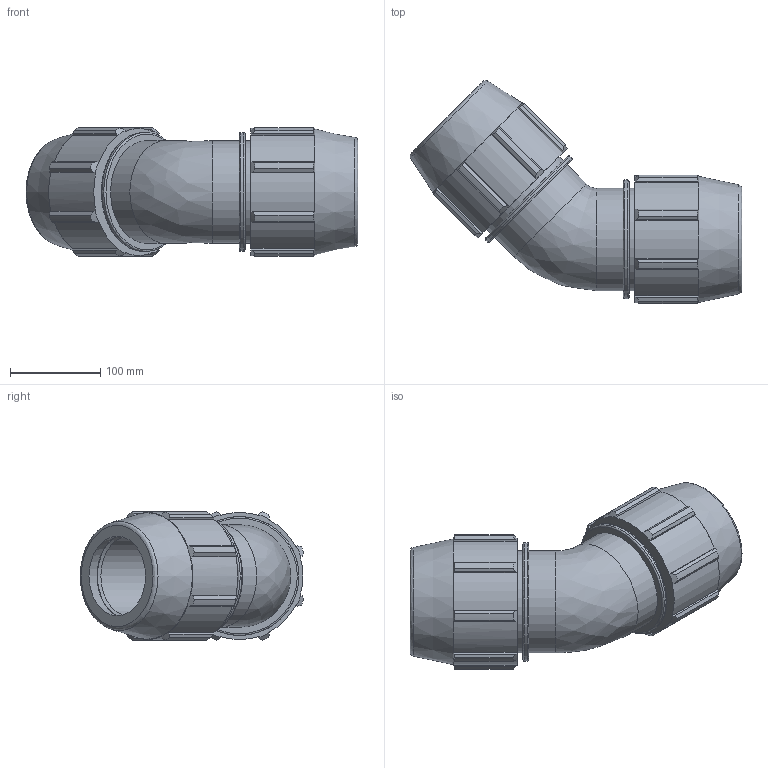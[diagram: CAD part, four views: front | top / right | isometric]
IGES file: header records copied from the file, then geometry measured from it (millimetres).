
Global section: file name: 0706M0030.ipt; native system: Autodesk Inventor 2019; preprocessor: unknown; author: KIM; date: 20210826.124630; units: inch
Bounding box: 368.88 x 248.31 x 142.92 mm (x, y, z)
Volume: 2693494.3 mm3; surface area: 306086 mm2
Topology: 1 solids, 1 shells, 146 faces, 417 edges, 281 vertices
Faces by surface type: plane 74, cylinder 38, cone 20, revolution 14
Full cylindrical faces by diameter (mm): 113.919 x4, 132.146 x2
